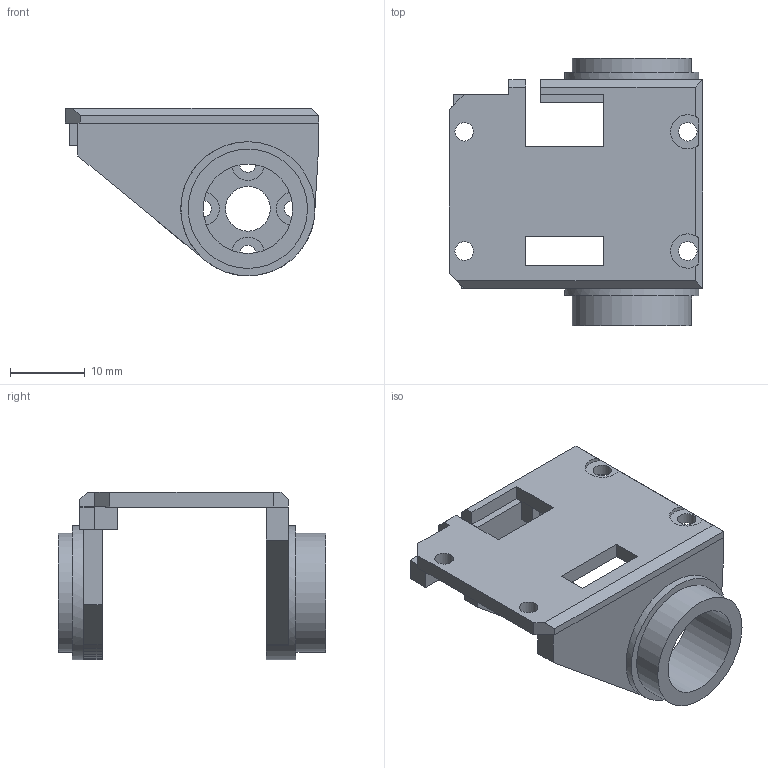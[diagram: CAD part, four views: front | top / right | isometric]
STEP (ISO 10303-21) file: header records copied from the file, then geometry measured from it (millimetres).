
FILE_DESCRIPTION(('FreeCAD Model'),'2;1');
FILE_NAME('Open CASCADE Shape Model','2026-09-09T20:58:36',('Author'),( ''),'Open CASCADE STEP processor 7.8','FreeCAD','Unknown');
FILE_SCHEMA(('AUTOMOTIVE_DESIGN { 1 0 10303 214 1 1 1 1 }'));
Length unit declared in the file: millimetre
Products named in the file (1): microduck-yaw-roll-motion
Bounding box: 34 x 35.89 x 22.5 mm (x, y, z)
Volume: 4633 mm3; surface area: 4761.1 mm2
Topology: 1 solids, 1 shells, 153 faces, 369 edges, 223 vertices
Faces by surface type: plane 133, cylinder 20
Full cylindrical faces by diameter (mm): 2.2 x4, 2.5 x4, 4.4 x4, 6 x1, 12 x1, 16 x2, 18 x2
Entity records: 4400 total; most frequent: DIRECTION 752, CARTESIAN_POINT 746, ORIENTED_EDGE 738, EDGE_CURVE 369, LINE 294, VECTOR 294, AXIS2_PLACEMENT_3D 229, VERTEX_POINT 223
